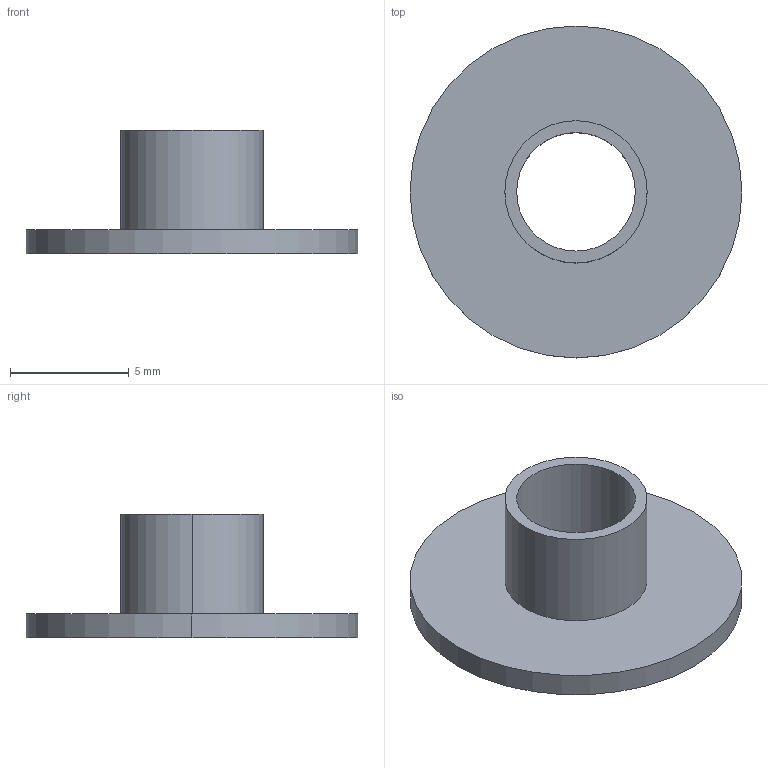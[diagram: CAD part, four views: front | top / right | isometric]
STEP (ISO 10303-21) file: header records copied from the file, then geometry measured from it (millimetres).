
FILE_DESCRIPTION (( 'STEP AP203' ), '1' );
FILE_NAME ('襯套.step', '2026-06-05T03:32:55', ( '' ), ( '' ), 'SwSTEP 2.0', 'SolidWorks 2024', '' );
FILE_SCHEMA (( 'CONFIG_CONTROL_DESIGN' ));
Length unit declared in the file: millimetre
Products named in the file (1): 襯套
Bounding box: 14 x 14 x 5.2 mm (x, y, z)
Volume: 170.6 mm3; surface area: 473.4 mm2
Topology: 1 solids, 1 shells, 9 faces, 18 edges, 12 vertices
Faces by surface type: cylinder 6, plane 3
Entity records: 325 total; most frequent: DIRECTION 50, CARTESIAN_POINT 40, ORIENTED_EDGE 36, AXIS2_PLACEMENT_3D 22, EDGE_CURVE 18, CIRCLE 12, VERTEX_POINT 12, EDGE_LOOP 12
